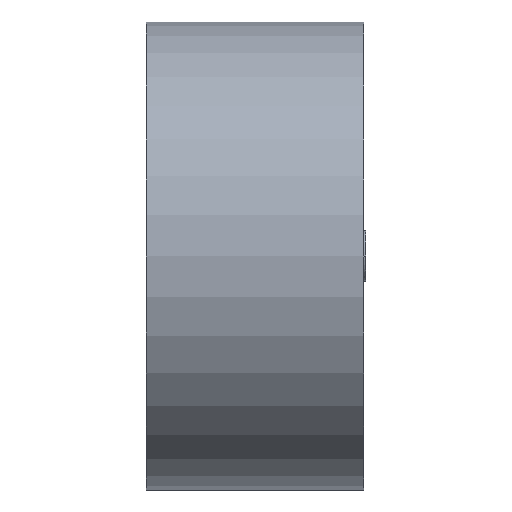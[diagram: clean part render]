
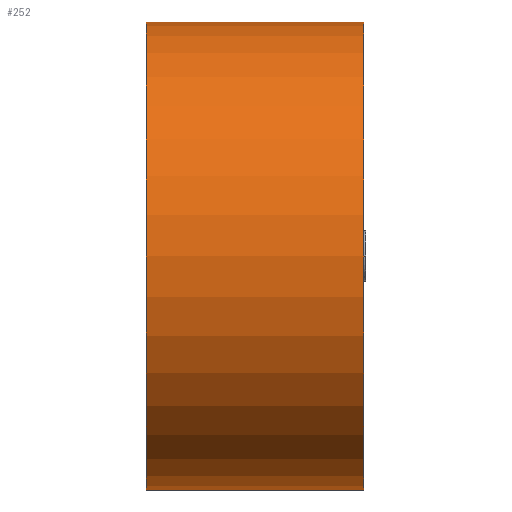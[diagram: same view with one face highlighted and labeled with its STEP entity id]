
A CAD part, front view. The second image highlights one B-rep face of the part: STEP entity #252.
In plain terms, the highlighted cylindrical face has radius 105.5 mm (diameter 211 mm), a partial arc.
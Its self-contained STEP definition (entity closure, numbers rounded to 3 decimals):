
#6=CARTESIAN_POINT('',(0.,0.,0.));
#7=DIRECTION('',(0.,0.,1.));
#8=DIRECTION('',(-1.,0.,0.));
#9=AXIS2_PLACEMENT_3D('',#6,#7,#8);
#21=DIRECTION('',(0.,0.,1.));
#22=VECTOR('',#21,98.);
#23=CARTESIAN_POINT('',(105.5,0.,0.));
#24=LINE('',#23,#22);
#25=DIRECTION('',(0.,0.,1.));
#26=VECTOR('',#25,98.);
#27=CARTESIAN_POINT('',(-105.5,0.,0.));
#28=LINE('',#27,#26);
#34=CARTESIAN_POINT('',(0.,0.,98.));
#35=DIRECTION('',(0.,0.,1.));
#36=DIRECTION('',(-1.,0.,0.));
#37=AXIS2_PLACEMENT_3D('',#34,#35,#36);
#159=CARTESIAN_POINT('',(105.5,0.,0.));
#160=CARTESIAN_POINT('',(-105.5,0.,0.));
#161=VERTEX_POINT('',#159);
#162=VERTEX_POINT('',#160);
#163=CARTESIAN_POINT('',(105.5,0.,98.));
#164=CARTESIAN_POINT('',(-105.5,0.,98.));
#165=VERTEX_POINT('',#163);
#166=VERTEX_POINT('',#164);
#240=CARTESIAN_POINT('',(0.,0.,0.));
#241=DIRECTION('',(0.,0.,1.));
#242=DIRECTION('',(1.,0.,0.));
#243=AXIS2_PLACEMENT_3D('',#240,#241,#242);
#244=CYLINDRICAL_SURFACE('',#243,105.5);
#245=ORIENTED_EDGE('',*,*,#214,.F.);
#246=ORIENTED_EDGE('',*,*,#235,.T.);
#248=ORIENTED_EDGE('',*,*,#247,.T.);
#249=ORIENTED_EDGE('',*,*,#231,.F.);
#250=EDGE_LOOP('',(#245,#246,#248,#249));
#251=FACE_OUTER_BOUND('',#250,.F.);
#252=ADVANCED_FACE('',(#251),#244,.T.);
#10=CIRCLE('',#9,105.5);
#38=CIRCLE('',#37,105.5);
#214=EDGE_CURVE('',#162,#161,#10,.T.);
#231=EDGE_CURVE('',#161,#165,#24,.T.);
#235=EDGE_CURVE('',#162,#166,#28,.T.);
#247=EDGE_CURVE('',#166,#165,#38,.T.);
